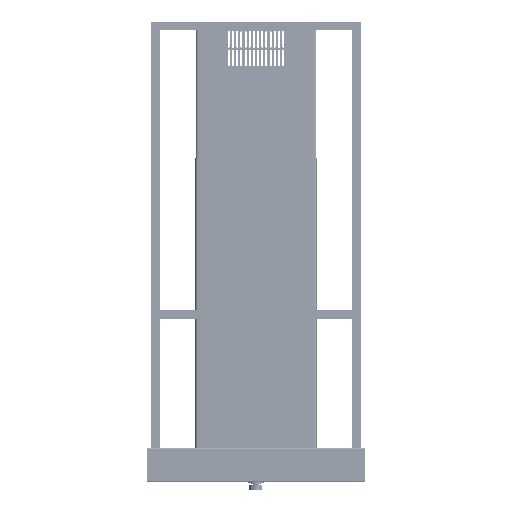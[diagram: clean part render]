
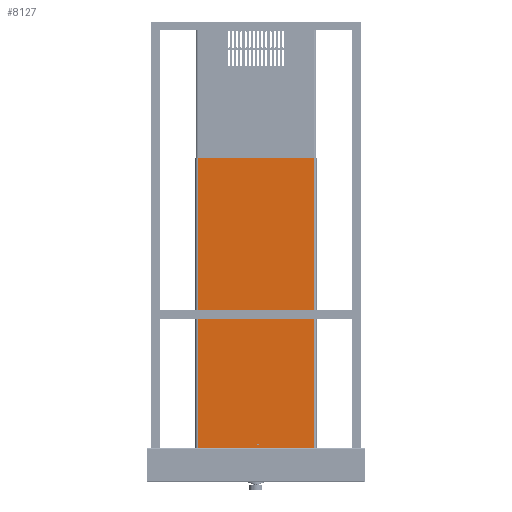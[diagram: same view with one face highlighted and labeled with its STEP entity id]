
A CAD part, left-side view. The second image highlights one B-rep face of the part: STEP entity #8127.
In plain terms, the highlighted planar face has unit normal (-1, 0, 0).
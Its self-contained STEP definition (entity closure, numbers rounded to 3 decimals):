
#2017=FACE_BOUND('',#22189,.T.);
#8127=ADVANCED_FACE('',(#14867,#2017),#120266,.T.);
#14867=FACE_OUTER_BOUND('',#22188,.T.);
#22188=EDGE_LOOP('',(#54200,#54201,#54202,#54203));
#22189=EDGE_LOOP('',(#54204,#54205));
#54200=ORIENTED_EDGE('',*,*,#76016,.T.);
#54201=ORIENTED_EDGE('',*,*,#76014,.F.);
#54202=ORIENTED_EDGE('',*,*,#76018,.T.);
#54203=ORIENTED_EDGE('',*,*,#76017,.T.);
#54204=ORIENTED_EDGE('',*,*,#76037,.T.);
#54205=ORIENTED_EDGE('',*,*,#76033,.T.);
#76014=EDGE_CURVE('',#112413,#112412,#99511,.T.);
#76016=EDGE_CURVE('',#112414,#112412,#99512,.T.);
#76017=EDGE_CURVE('',#112415,#112414,#99513,.T.);
#76018=EDGE_CURVE('',#112413,#112415,#99514,.T.);
#76033=EDGE_CURVE('',#112416,#112417,#81632,.T.);
#76037=EDGE_CURVE('',#112417,#112416,#81634,.T.);
#81632=TRIMMED_CURVE($,#85267,(#223561),(#223562),.T.,.CARTESIAN.);
#81634=TRIMMED_CURVE($,#85269,(#223571),(#223572),.T.,.CARTESIAN.);
#85267=CIRCLE('',#133921,2.);
#85269=CIRCLE('',#133923,2.);
#99511=B_SPLINE_CURVE_WITH_KNOTS('',1,(#223517,#223518),.UNSPECIFIED.,.F.,
 .F.,(2,2),(-700.,0.),.UNSPECIFIED.);
#99512=B_SPLINE_CURVE_WITH_KNOTS('',1,(#223522,#223523),.UNSPECIFIED.,.F.,
 .F.,(2,2),(-280.,0.),.UNSPECIFIED.);
#99513=B_SPLINE_CURVE_WITH_KNOTS('',1,(#223524,#223525),.UNSPECIFIED.,.F.,
 .F.,(2,2),(-700.,0.),.UNSPECIFIED.);
#99514=B_SPLINE_CURVE_WITH_KNOTS('',1,(#223526,#223527),.UNSPECIFIED.,.F.,
 .F.,(2,2),(-280.,0.),.UNSPECIFIED.);
#112412=VERTEX_POINT('',#223378);
#112413=VERTEX_POINT('',#223379);
#112414=VERTEX_POINT('',#223380);
#112415=VERTEX_POINT('',#223381);
#112416=VERTEX_POINT('',#223382);
#112417=VERTEX_POINT('',#223383);
#120266=PLANE('',#133887);
#133887=AXIS2_PLACEMENT_3D('',#223330,#147272,$);
#133921=AXIS2_PLACEMENT_3D($,#223560,#147326,#147327);
#133923=AXIS2_PLACEMENT_3D($,#223570,#147330,#147331);
#147272=DIRECTION('',(-1.,0.,0.));
#147326=DIRECTION('',(1.,0.,0.));
#147327=DIRECTION('',(0.,0.,1.));
#147330=DIRECTION('',(1.,0.,0.));
#147331=DIRECTION('',(0.,0.,-1.));
#223330=CARTESIAN_POINT('',(-175.,-420.084,-168.084));
#223378=CARTESIAN_POINT('',(-175.,-350.,140.));
#223379=CARTESIAN_POINT('',(-175.,350.,140.));
#223380=CARTESIAN_POINT('',(-175.,-350.,-140.));
#223381=CARTESIAN_POINT('',(-175.,350.,-140.));
#223382=CARTESIAN_POINT('',(-175.,-335.,7.5));
#223383=CARTESIAN_POINT('',(-175.,-335.,3.5));
#223517=CARTESIAN_POINT('',(-175.,350.,140.));
#223518=CARTESIAN_POINT('',(-175.,-350.,140.));
#223522=CARTESIAN_POINT('',(-175.,-350.,-140.));
#223523=CARTESIAN_POINT('',(-175.,-350.,140.));
#223524=CARTESIAN_POINT('',(-175.,350.,-140.));
#223525=CARTESIAN_POINT('',(-175.,-350.,-140.));
#223526=CARTESIAN_POINT('',(-175.,350.,140.));
#223527=CARTESIAN_POINT('',(-175.,350.,-140.));
#223560=CARTESIAN_POINT('',(-175.,-335.,5.5));
#223561=CARTESIAN_POINT('',(-175.,-335.,7.5));
#223562=CARTESIAN_POINT('',(-175.,-335.,3.5));
#223570=CARTESIAN_POINT('',(-175.,-335.,5.5));
#223571=CARTESIAN_POINT('',(-175.,-335.,3.5));
#223572=CARTESIAN_POINT('',(-175.,-335.,7.5));
